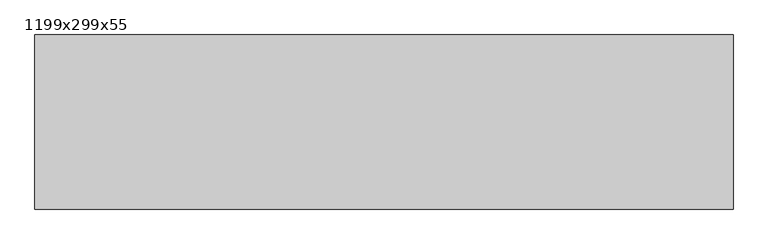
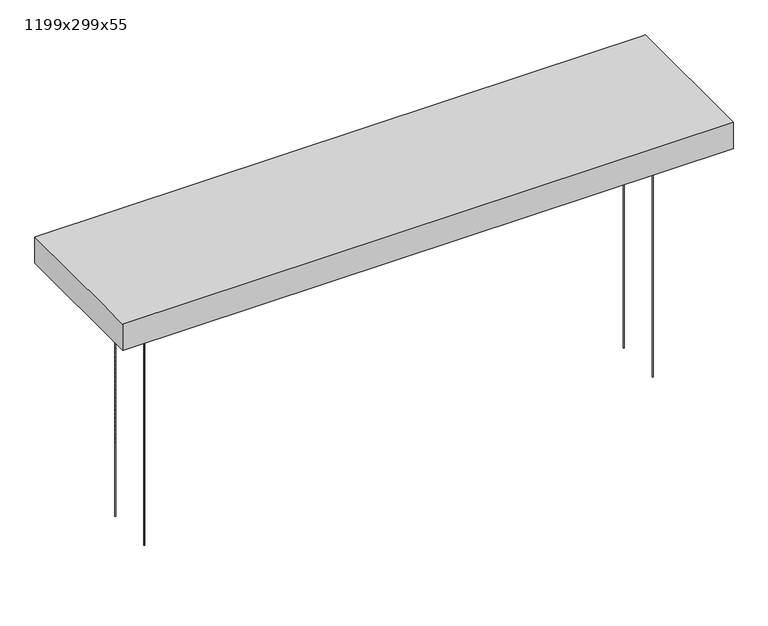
"""IFC4 building model written with IfcOpenShell, lengths in millimetres: proxy geometry, Texaa Panneaux_acoustiques Stereo suspendus_séparés : 1199x299x55."""

from ifc_helpers import new_model, si_unit, point, frame, frame_2d, origin, origin_with_axes, place, context, project, spatial, polyline, circle_curve, trimmed, segment, composite_curve, outline, extrude, faceted_brep, source, transform, mapped, element, save


def proxy_1199x299x55_d9b5d045(model_context):
    return source(origin(), model_context, "Body", "SolidModel", [
        extrude(outline(composite_curve([segment(trimmed(circle_curve(frame_2d((-499.5, -49.5)), 0.75), [point((-500.25, -49.5))], [point((-498.75, -49.5))], False, "CARTESIAN"), True, "CONTINUOUS"), segment(trimmed(circle_curve(frame_2d((-499.5, -49.5)), 0.75), [point((-498.75, -49.5))], [point((-500.25, -49.5))], False, "CARTESIAN"), True, "CONTINUOUS")], self_intersect=False)), origin_with_axes(), (0.0, 0.0, 1.0), 500.0),
        extrude(outline(composite_curve([segment(trimmed(circle_curve(frame_2d((499.5, -49.5)), 0.75), [point((498.75, -49.5))], [point((500.25, -49.5))], False, "CARTESIAN"), True, "CONTINUOUS"), segment(trimmed(circle_curve(frame_2d((499.5, -49.5)), 0.75), [point((500.25, -49.5))], [point((498.75, -49.5))], False, "CARTESIAN"), True, "CONTINUOUS")], self_intersect=False)), origin_with_axes(), (0.0, 0.0, 1.0), 500.0),
        extrude(outline(composite_curve([segment(trimmed(circle_curve(frame_2d((499.5, 49.5)), 0.75), [point((498.75, 49.5))], [point((500.25, 49.5))], False, "CARTESIAN"), True, "CONTINUOUS"), segment(trimmed(circle_curve(frame_2d((499.5, 49.5)), 0.75), [point((500.25, 49.5))], [point((498.75, 49.5))], False, "CARTESIAN"), True, "CONTINUOUS")], self_intersect=False)), origin_with_axes(), (0.0, 0.0, 1.0), 500.0),
        extrude(outline(composite_curve([segment(trimmed(circle_curve(frame_2d((-499.5, 49.5)), 0.75), [point((-500.25, 49.5))], [point((-498.75, 49.5))], False, "CARTESIAN"), True, "CONTINUOUS"), segment(trimmed(circle_curve(frame_2d((-499.5, 49.5)), 0.75), [point((-498.75, 49.5))], [point((-500.25, 49.5))], False, "CARTESIAN"), True, "CONTINUOUS")], self_intersect=False)), origin_with_axes(), (0.0, 0.0, 1.0), 500.0),
        extrude(outline(polyline([(-598.5, -148.5), (-598.5, 148.5), (598.5, 148.5), (598.5, -148.5), (-598.5, -148.5)])), frame((0.0, 0.0, 501.0), z_axis=(0.0, 0.0, 1.0), x_axis=(1.0, 0.0, 0.0)), (0.0, 0.0, 1.0), 53.0),
        faceted_brep([(599.5, 149.5, 555.0), (595.3671598, 149.5, 555.0), (372.1937883, 149.5, 555.0), (-599.5, 149.5, 555.0), (-599.5, -92.8156319, 555.0), (-599.5, -148.4693751, 555.0), (-599.5, -149.5, 555.0), (599.5, -149.5, 555.0), (-599.5, -149.5, 500.0), (-599.5, 149.5, 500.0), (599.5, 149.5, 500.0), (599.5, -149.5, 500.0), (-549.5, 99.5, 500.0), (-549.5, -99.5, 500.0), (549.5, -99.5, 500.0), (549.5, 99.5, 500.0), (-599.5, -149.5, 554.0), (599.5, 149.5, 554.0), (549.5, 99.5, 501.0), (-549.5, 99.5, 501.0), (549.5, -99.5, 501.0), (-549.5, -99.5, 501.0), (598.5, -148.5, 554.0), (-595.4899666, -148.5, 554.0), (-598.5, -148.5, 554.0), (-598.5, -148.2200006, 554.0), (-598.5, -92.5662575, 554.0), (-598.5, 148.5, 554.0), (368.1837548, 148.5, 554.0), (591.3571263, 148.5, 554.0), (595.4899666, 148.5, 554.0), (598.5, 148.5, 554.0), (-598.5, -148.5, 501.0), (598.5, -148.5, 501.0), (598.5, 148.5, 501.0), (-598.5, 148.5, 501.0)], [[[0, 1, 2, 3, 4, 5, 6, 7]], [[8, 9, 10, 11], [12, 13, 14, 15]], [[8, 16, 6, 5, 4, 3, 9]], [[9, 3, 2, 1, 0, 17, 10]], [[7, 11, 10, 17, 0]], [[6, 16, 8, 11, 7]], [[12, 15, 18, 19]], [[15, 14, 20, 18]], [[14, 13, 21, 20]], [[19, 21, 13, 12]], [[22, 23, 24, 25, 26, 27, 28, 29, 30, 31]], [[32, 33, 34, 35], [18, 20, 21, 19]], [[35, 27, 26, 25, 24, 32]], [[34, 31, 30, 29, 28, 27, 35]], [[31, 34, 33, 22]], [[32, 24, 23, 22, 33]]]),
    ])


if __name__ == "__main__":
    model = new_model("IFC4")
    model_context = context("Model", 3, world=origin())
    ifc_project = project(units=[si_unit("LENGTHUNIT", "METRE", prefix="MILLI")], contexts=[model_context])
    site = spatial("IfcSite", under=ifc_project)
    building = spatial("IfcBuilding", under=site)
    placement = place(None, origin())
    proxy_1199x299x55_shape = proxy_1199x299x55_d9b5d045(model_context)
    element("IfcBuildingElementProxy", 1, Name="Texaa Panneaux_acoustiques Stereo suspendus_séparés : 1199x299x55", ObjectType="Texaa Panneaux_acoustiques Stereo suspendus_séparés : 1199x299x55", at=placement, inside=building, context=model_context, shape_type="MappedRepresentation", body=[
        mapped(proxy_1199x299x55_shape, transform((0.0, 0.0, 0.0), x_axis=(1.0, 0.0, 0.0), y_axis=(0.0, 1.0, 0.0), z_axis=(0.0, 0.0, 1.0))),
    ])
    save(model, "model.ifc")
